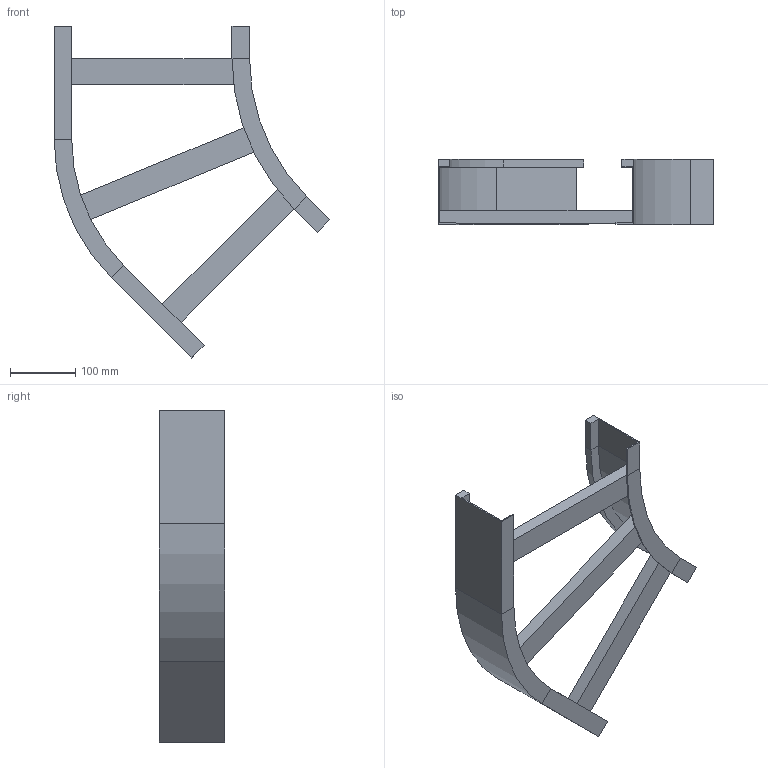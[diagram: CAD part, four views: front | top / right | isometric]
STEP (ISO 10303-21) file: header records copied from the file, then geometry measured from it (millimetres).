
FILE_DESCRIPTION (( 'STEP AP214' ), '1' );
FILE_NAME ('B2_11B3D300.step', '2025-02-21T15:12:54', ( '' ), ( '' ), 'SwSTEP 2.0', 'SolidWorks 2023', '' );
FILE_SCHEMA (( 'AUTOMOTIVE_DESIGN' ));
Length unit declared in the file: millimetre
Products named in the file (5): B2_LONGH.INTERNO 45°_H100_R300; TRAVERSINO_L320; TRAVERSINO_300; B2_LONGH.ESTERNO 45°_H100_R300+300; B2_11B3D300
Assembly tree (5 placements, depth 2):
  B2_11B3D300
    B2_LONGH.INTERNO 45°_H100_R300
    B2_LONGH.ESTERNO 45°_H100_R300+300
    TRAVERSINO_300  x2
    TRAVERSINO_L320
Bounding box: 423.22 x 100 x 509.62 mm (x, y, z)
Volume: 1145257 mm3; surface area: 380033.4 mm2
Topology: 5 solids, 5 shells, 70 faces, 148 edges, 88 vertices
Faces by surface type: plane 62, cylinder 8
Entity records: 1822 total; most frequent: DIRECTION 296, CARTESIAN_POINT 288, ORIENTED_EDGE 272, EDGE_CURVE 136, VECTOR 120, LINE 120, AXIS2_PLACEMENT_3D 88, VERTEX_POINT 80
